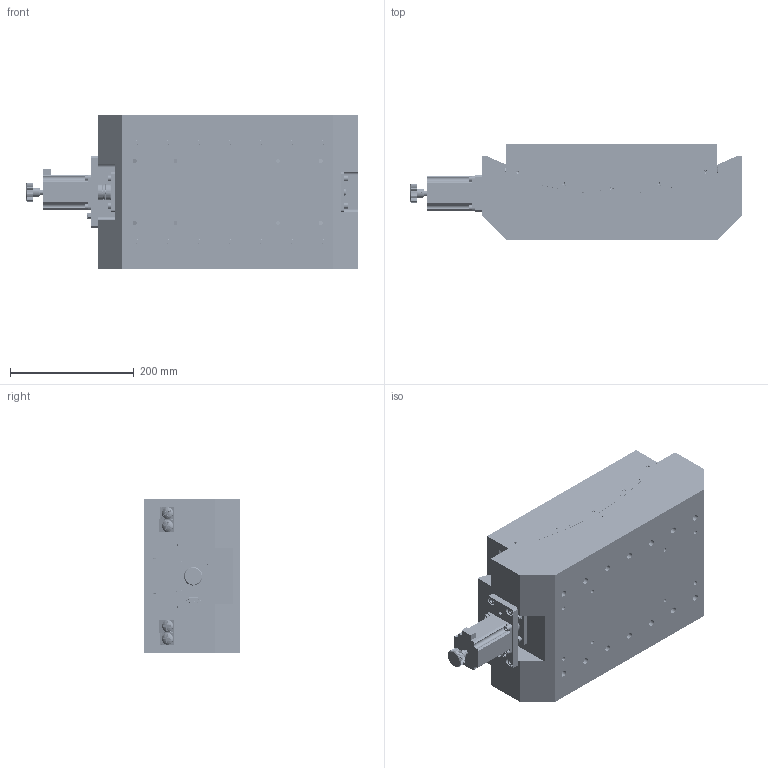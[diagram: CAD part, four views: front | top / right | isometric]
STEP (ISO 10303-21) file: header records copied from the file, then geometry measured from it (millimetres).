
FILE_DESCRIPTION (( 'STEP AP203' ), '1' );
FILE_NAME ('PT-GD370×°Åä.STEP', '2025-02-10T06:26:39', ( '' ), ( '' ), 'SwSTEP 2.0', 'SolidWorks 2023', '' );
FILE_SCHEMA (( 'CONFIG_CONTROL_DESIGN' ));
Length unit declared in the file: millimetre
Products named in the file (25): GB／T70．1-2000内六角圆柱头螺钉M6×16; SFC-C26-06-06单膜片联轴器; 9针座螺钉; GB／T276-94深沟球轴承61801-2Z; PT-GD370装配; PT-GD370-03蜗杆; MVR9-431滚珠支架; MVR9-431L; 9针座; PT-GD250手轮; PT-GD370-01底座; GB／T70．1-2000内六角圆柱头螺钉M6×12; GB／T70．1-2000内六角圆柱头螺钉M5×16; SST59D5106; GB／T 70．1-2000[内六角圆柱头螺钉M6×25]; 涡轮870-1; PT-GD370-02台面; MVR9-431R; D9钢球; 57电机座; GB／T77-2000内六角平端紧定螺钉M6×12; PT-GD250轴承座; GB／T 70．1-2000[内六角圆柱头螺钉M6×16]; PT-GD250轴承座螺帽; MVR9限位堵头
Assembly tree (129 placements, depth 2):
  PT-GD370装配
    PT-GD370-01底座
    PT-GD370-02台面
    GB／T276-94深沟球轴承61801-2Z  x2
    PT-GD370-03蜗杆
    SST59D5106
    57电机座
    PT-GD250轴承座  x2
    PT-GD250轴承座螺帽  x2
    SFC-C26-06-06单膜片联轴器
    PT-GD250手轮
    GB／T70．1-2000内六角圆柱头螺钉M5×16  x4
    GB／T70．1-2000内六角圆柱头螺钉M6×16  x8
    GB／T77-2000内六角平端紧定螺钉M6×12  x10
    GB／T70．1-2000内六角圆柱头螺钉M6×12  x4
    涡轮870-1
    MVR9-431L  x2
    MVR9-431R  x2
    MVR9-431滚珠支架  x2
    D9钢球  x30
    MVR9限位堵头  x8
    9针座
    9针座螺钉  x2
    GB／T 70．1-2000[内六角圆柱头螺钉M6×25]  x28
    GB／T 70．1-2000[内六角圆柱头螺钉M6×16]  x14
Bounding box: 535.5 x 155.01 x 250 mm (x, y, z)
Volume: 11529027 mm3; surface area: 1120453.9 mm2
Topology: 129 solids, 131 shells, 3938 faces, 9935 edges, 6369 vertices
Faces by surface type: plane 1553, cylinder 1423, torus 340, cone 324, sphere 286, bspline 12
Entity records: 85134 total; most frequent: CARTESIAN_POINT 29288, ORIENTED_EDGE 10742, DIRECTION 10164, EDGE_CURVE 5371, AXIS2_PLACEMENT_3D 4033, VERTEX_POINT 3518, EDGE_LOOP 2449, LINE 2098
